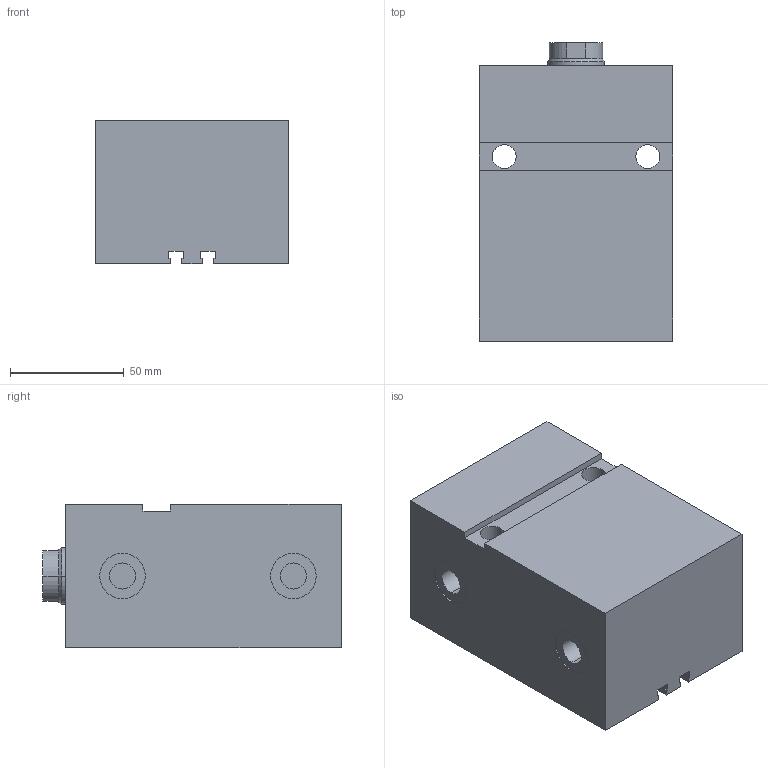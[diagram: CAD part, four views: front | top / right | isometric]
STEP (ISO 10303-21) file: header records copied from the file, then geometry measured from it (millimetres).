
FILE_DESCRIPTION (( 'STEP AP203' ), '1' );
FILE_NAME ('GERMA_Blockzylinder_702-040-050.STEP', '2016-07-23T10:12:37', ( '' ), ( '' ), 'SwSTEP 2.0', 'SolidWorks 2015', '' );
FILE_SCHEMA (( 'CONFIG_CONTROL_DESIGN' ));
Length unit declared in the file: millimetre
Products named in the file (3): Kolben_MT 70x-040_Kolben_MT DU.40-Hub50-IG; GERMA_Blockzylinder_702-040-050; GH-700-040_GH-702-040-050
Assembly tree (2 placements, depth 2):
  GERMA_Blockzylinder_702-040-050
    GH-700-040_GH-702-040-050
    Kolben_MT 70x-040_Kolben_MT DU.40-Hub50-IG
Bounding box: 85 x 131 x 63 mm (x, y, z)
Volume: 583957.7 mm3; surface area: 82070.2 mm2
Topology: 2 solids, 2 shells, 92 faces, 214 edges, 134 vertices
Faces by surface type: plane 43, cylinder 35, cone 14
Entity records: 2894 total; most frequent: DIRECTION 483, CARTESIAN_POINT 439, ORIENTED_EDGE 416, EDGE_CURVE 208, AXIS2_PLACEMENT_3D 178, VERTEX_POINT 134, LINE 127, VECTOR 127
